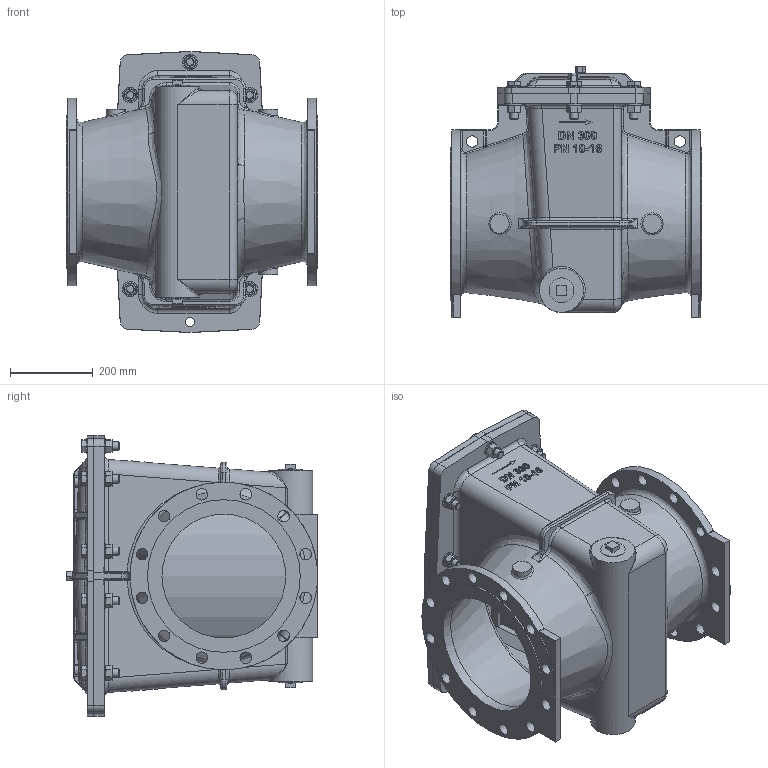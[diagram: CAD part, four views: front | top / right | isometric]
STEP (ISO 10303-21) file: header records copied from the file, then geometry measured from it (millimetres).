
FILE_DESCRIPTION(/* description */ (''),/* implementation_level */ '2;1');
FILE_NAME(/* name */ 'G:\Doc_Liberes\SymbolesCAD\Modeles_3D\FichierSTP\Aqua\Aqua90501\FAB300_16.stp',/* time_stamp */ '2017-11-27T08:56:22+01:00',/* author */ ('Cédric'),/* organization */ (''),/* preprocessor_version */ 'ST-DEVELOPER v16.13',/* originating_system */ 'Autodesk Inventor 2018',/* authorisation */ '');
FILE_SCHEMA (('AUTOMOTIVE_DESIGN { 1 0 10303 214 3 1 1 }'));
Length unit declared in the file: millimetre
Products named in the file (15): *CTA90501G3002-KCO; 58075-46; 58078-40; 58079; 58079prot; 58079tam; 57576-02; 57576-07; 57507; 58077-40; 300656-12; ISO 49 Bouchon mâle plat T8 2; ISO 4014 - M20 x 80; ISO 7089 - 20 - 140 HV; ISO 4032 - M20
Assembly tree (49 placements, depth 3):
  *CTA90501G3002-KCO
    58075-46
    58078-40
    58079
      58079prot
      58079tam
    ISO 4014 - M20 x 80  x9
    ISO 7089 - 20 - 140 HV  x19
    ISO 4032 - M20  x9
    57576-02
      57576-07
      57507
    58077-40
    300656-12
    ISO 49 Bouchon mâle plat T8 2  x2
Bounding box: 610 x 609.5 x 680 mm (x, y, z)
Volume: 31300142.3 mm3; surface area: 4736991.6 mm2
Topology: 47 solids, 47 shells, 3142 faces, 7862 edges, 4828 vertices
Faces by surface type: plane 1259, cylinder 853, bspline 651, torus 246, cone 125, sphere 8
Full cylindrical faces by diameter (mm): 1.6 x1, 2.3 x1, 6.5 x1, 6.92 x1, 8 x1, 10 x4, 10.11 x2, 14 x1, 17.294 x9, 18.63 x1, 20 x9, 20.955 x1, 21 x19, 22 x20, 28 x26, 28.19 x9, 37 x19, 46 x3, 56.66 x2, 300 x2, 370 x2, 455 x2
Entity records: 105992 total; most frequent: CARTESIAN_POINT 40717, ORIENTED_EDGE 14002, DIRECTION 12410, EDGE_CURVE 7001, AXIS2_PLACEMENT_3D 4492, VERTEX_POINT 4345, LINE 3426, VECTOR 3426
